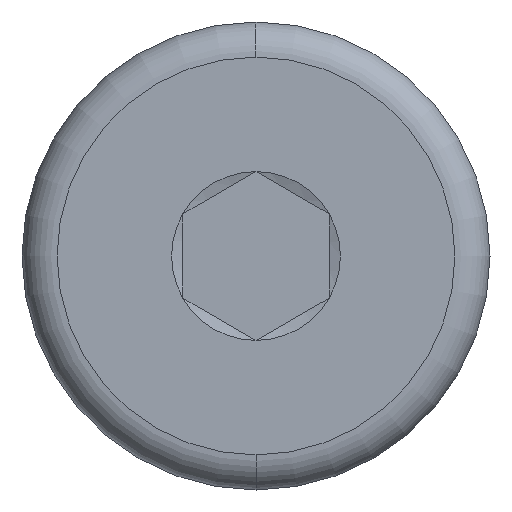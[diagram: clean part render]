
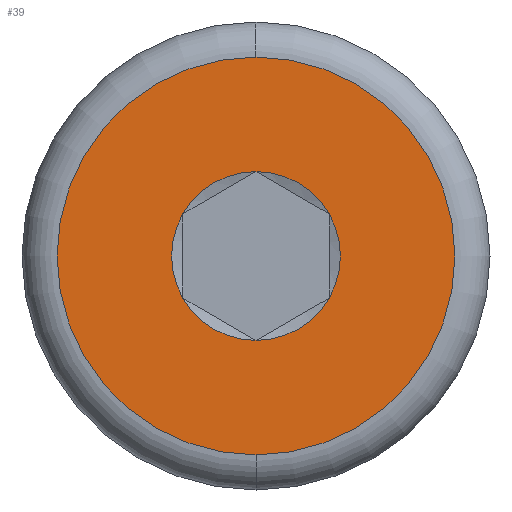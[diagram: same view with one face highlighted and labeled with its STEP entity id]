
A CAD part, left-side view. The second image highlights one B-rep face of the part: STEP entity #39.
In plain terms, the highlighted planar face has unit normal (-1, 0, 0).
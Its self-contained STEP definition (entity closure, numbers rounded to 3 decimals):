
#8 = DIRECTION ( 'NONE',  ( 1., 0., 0. ) ) ;
#28 = DIRECTION ( 'NONE',  ( 1., 0., 0. ) ) ;
#39 = ADVANCED_FACE ( 'NONE', ( #563, #501 ), #83, .T. ) ;
#43 = CARTESIAN_POINT ( 'NONE',  ( 0., 1.25, -0.722 ) ) ;
#46 = CIRCLE ( 'NONE', #101, 1.443 ) ;
#66 = EDGE_LOOP ( 'NONE', ( #442, #308 ) ) ;
#74 = DIRECTION ( 'NONE',  ( 1., 0., 0. ) ) ;
#81 = AXIS2_PLACEMENT_3D ( 'NONE', #336, #272, #487 ) ;
#83 = PLANE ( 'NONE',  #376 ) ;
#85 = DIRECTION ( 'NONE',  ( 1., 0., 0. ) ) ;
#88 = CARTESIAN_POINT ( 'NONE',  ( 0., 1.25, 0.722 ) ) ;
#92 = DIRECTION ( 'NONE',  ( 0., 0., 1. ) ) ;
#94 = CARTESIAN_POINT ( 'NONE',  ( 0., 0., 0. ) ) ;
#95 = VERTEX_POINT ( 'NONE', #503 ) ;
#101 = AXIS2_PLACEMENT_3D ( 'NONE', #480, #74, #167 ) ;
#115 = VERTEX_POINT ( 'NONE', #340 ) ;
#129 = EDGE_CURVE ( 'NONE', #164, #95, #443, .T. ) ;
#140 = VERTEX_POINT ( 'NONE', #88 ) ;
#143 = AXIS2_PLACEMENT_3D ( 'NONE', #406, #85, #296 ) ;
#156 = AXIS2_PLACEMENT_3D ( 'NONE', #184, #192, #602 ) ;
#164 = VERTEX_POINT ( 'NONE', #673 ) ;
#167 = DIRECTION ( 'NONE',  ( 0., 0., -1. ) ) ;
#173 = VERTEX_POINT ( 'NONE', #354 ) ;
#184 = CARTESIAN_POINT ( 'NONE',  ( 0., 0., 0. ) ) ;
#186 = EDGE_CURVE ( 'NONE', #115, #524, #230, .T. ) ;
#192 = DIRECTION ( 'NONE',  ( 1., 0., 0. ) ) ;
#210 = AXIS2_PLACEMENT_3D ( 'NONE', #94, #8, #425 ) ;
#228 = VERTEX_POINT ( 'NONE', #43 ) ;
#230 = CIRCLE ( 'NONE', #210, 1.443 ) ;
#232 = AXIS2_PLACEMENT_3D ( 'NONE', #357, #567, #317 ) ;
#234 = DIRECTION ( 'NONE',  ( 0., 0., -1. ) ) ;
#272 = DIRECTION ( 'NONE',  ( 1., 0., 0. ) ) ;
#296 = DIRECTION ( 'NONE',  ( 0., 0., -1. ) ) ;
#306 = EDGE_CURVE ( 'NONE', #228, #140, #46, .T. ) ;
#308 = ORIENTED_EDGE ( 'NONE', *, *, #129, .F. ) ;
#317 = DIRECTION ( 'NONE',  ( 0., 0., -1. ) ) ;
#323 = CIRCLE ( 'NONE', #445, 3.4 ) ;
#336 = CARTESIAN_POINT ( 'NONE',  ( 0., 0., 0. ) ) ;
#338 = EDGE_CURVE ( 'NONE', #524, #494, #402, .T. ) ;
#340 = CARTESIAN_POINT ( 'NONE',  ( 0., 0., 1.443 ) ) ;
#354 = CARTESIAN_POINT ( 'NONE',  ( 0., 0., -1.443 ) ) ;
#355 = ORIENTED_EDGE ( 'NONE', *, *, #306, .T. ) ;
#357 = CARTESIAN_POINT ( 'NONE',  ( 0., 0., 0. ) ) ;
#376 = AXIS2_PLACEMENT_3D ( 'NONE', #655, #550, #92 ) ;
#394 = CARTESIAN_POINT ( 'NONE',  ( 0., -1.25, 0.722 ) ) ;
#402 = CIRCLE ( 'NONE', #81, 1.443 ) ;
#406 = CARTESIAN_POINT ( 'NONE',  ( 0., 0., 0. ) ) ;
#411 = DIRECTION ( 'NONE',  ( 1., 0., 0. ) ) ;
#420 = CARTESIAN_POINT ( 'NONE',  ( 0., 0., 0. ) ) ;
#425 = DIRECTION ( 'NONE',  ( 0., 0., -1. ) ) ;
#434 = CIRCLE ( 'NONE', #643, 1.443 ) ;
#442 = ORIENTED_EDGE ( 'NONE', *, *, #576, .F. ) ;
#443 = CIRCLE ( 'NONE', #143, 3.4 ) ;
#445 = AXIS2_PLACEMENT_3D ( 'NONE', #656, #28, #234 ) ;
#469 = ORIENTED_EDGE ( 'NONE', *, *, #338, .T. ) ;
#480 = CARTESIAN_POINT ( 'NONE',  ( 0., 0., 0. ) ) ;
#487 = DIRECTION ( 'NONE',  ( 0., 0., -1. ) ) ;
#494 = VERTEX_POINT ( 'NONE', #549 ) ;
#496 = ORIENTED_EDGE ( 'NONE', *, *, #594, .T. ) ;
#501 = FACE_OUTER_BOUND ( 'NONE', #66, .T. ) ;
#503 = CARTESIAN_POINT ( 'NONE',  ( 0., 0., -3.4 ) ) ;
#524 = VERTEX_POINT ( 'NONE', #394 ) ;
#528 = ORIENTED_EDGE ( 'NONE', *, *, #186, .T. ) ;
#530 = CIRCLE ( 'NONE', #232, 1.443 ) ;
#547 = ORIENTED_EDGE ( 'NONE', *, *, #650, .T. ) ;
#549 = CARTESIAN_POINT ( 'NONE',  ( 0., -1.25, -0.722 ) ) ;
#550 = DIRECTION ( 'NONE',  ( -1., 0., 0. ) ) ;
#553 = CIRCLE ( 'NONE', #156, 1.443 ) ;
#563 = FACE_BOUND ( 'NONE', #566, .T. ) ;
#566 = EDGE_LOOP ( 'NONE', ( #577, #528, #469, #496, #547, #355 ) ) ;
#567 = DIRECTION ( 'NONE',  ( 1., 0., 0. ) ) ;
#576 = EDGE_CURVE ( 'NONE', #95, #164, #323, .T. ) ;
#577 = ORIENTED_EDGE ( 'NONE', *, *, #638, .T. ) ;
#594 = EDGE_CURVE ( 'NONE', #494, #173, #553, .T. ) ;
#602 = DIRECTION ( 'NONE',  ( 0., 0., -1. ) ) ;
#624 = DIRECTION ( 'NONE',  ( 0., 0., -1. ) ) ;
#638 = EDGE_CURVE ( 'NONE', #140, #115, #530, .T. ) ;
#643 = AXIS2_PLACEMENT_3D ( 'NONE', #420, #411, #624 ) ;
#650 = EDGE_CURVE ( 'NONE', #173, #228, #434, .T. ) ;
#655 = CARTESIAN_POINT ( 'NONE',  ( 0., 0., 0. ) ) ;
#656 = CARTESIAN_POINT ( 'NONE',  ( 0., 0., 0. ) ) ;
#673 = CARTESIAN_POINT ( 'NONE',  ( 0., 0., 3.4 ) ) ;
